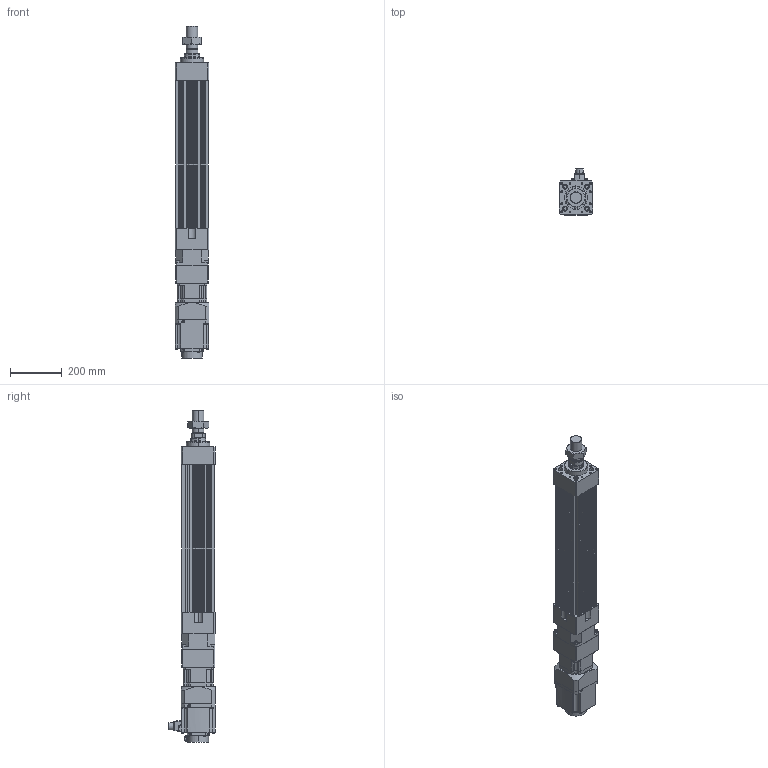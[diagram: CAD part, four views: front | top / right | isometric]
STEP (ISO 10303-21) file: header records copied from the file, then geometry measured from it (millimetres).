
FILE_DESCRIPTION (( 'STEP AP203' ), '1' );
FILE_NAME ('HES130NS(FS)(HS)-S350-W015G00-M.STEP', '2023-01-30T08:09:18', ( 'tms' ), ( '' ), 'SwSTEP 2.0', 'SolidWorks 2013', '' );
FILE_SCHEMA (( 'CONFIG_CONTROL_DESIGN' ));
Length unit declared in the file: millimetre
Products named in the file (8): P0401400706; AB115-003[HG-SR152]; HES130-S350-G120; HES130 ROD M ST350; HES130NS(FS)(HS)-S350-W015G00-M; M45X1.5P; HG-SR152; AB1151
Assembly tree (7 placements, depth 3):
  HES130NS(FS)(HS)-S350-W015G00-M
    HES130-S350-G120
    HES130 ROD M ST350
    M45X1.5P
    AB115-003[HG-SR152]
      AB1151
      P0401400706
    HG-SR152
Bounding box: 130 x 177.49 x 1279.5 mm (x, y, z)
Volume: 9956972.2 mm3; surface area: 1267246.4 mm2
Topology: 4 solids, 15 shells, 1220 faces, 3076 edges, 1983 vertices
Faces by surface type: cylinder 553, plane 551, cone 104, bspline 8, torus 4
Entity records: 38254 total; most frequent: CARTESIAN_POINT 7242, DIRECTION 6653, ORIENTED_EDGE 6060, EDGE_CURVE 3040, AXIS2_PLACEMENT_3D 2462, VERTEX_POINT 1983, VECTOR 1729, LINE 1729
